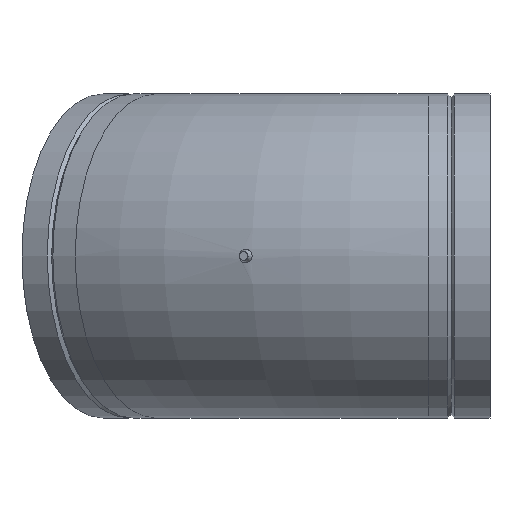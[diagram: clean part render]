
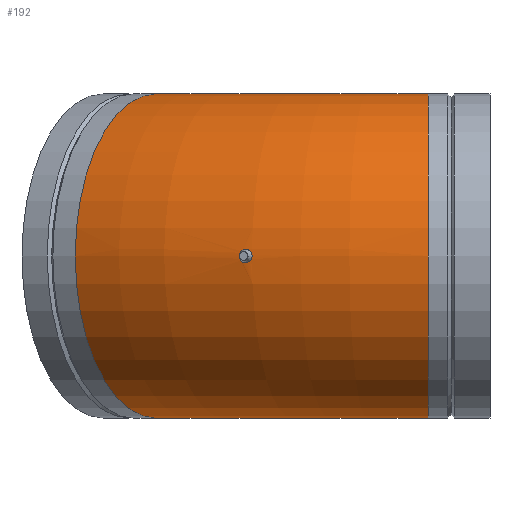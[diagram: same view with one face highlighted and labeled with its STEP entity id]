
A CAD part, left-side view. The second image highlights one B-rep face of the part: STEP entity #192.
In plain terms, the highlighted toroidal (fillet/blend) face has major radius 420 mm and minor radius 125 mm.
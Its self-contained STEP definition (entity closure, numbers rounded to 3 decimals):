
#19=TOROIDAL_SURFACE($,#214,420.,125.);
#25=FACE_BOUND($,#62,.T.);
#26=FACE_BOUND($,#63,.T.);
#41=B_SPLINE_CURVE_WITH_KNOTS($,3,(#308,#309,#310,#311,#312,#313,#314,#315,
#316,#317,#318,#319,#320,#321,#322,#323,#324,#325,#326,#327,#328,#329,#330,
#331,#332,#333,#334,#335,#336,#337,#338,#339,#340,#341,#342,#343,#344,#345,
#346,#347,#348,#349,#350,#351),.UNSPECIFIED.,.T.,.F.,(4,2,2,2,2,2,2,2,2,
2,2,2,2,2,2,2,2,2,2,2,2,4),(-3.228,-3.151,-3.048,
-2.861,-2.661,-2.459,-2.265,
-2.082,-1.878,-1.739,-1.652,
-1.577,-1.49,-1.351,-1.154,
-0.952,-0.752,-0.564,-0.386,
-0.183,-0.078,0.),.UNSPECIFIED.);
#45=FACE_OUTER_BOUND($,#61,.T.);
#61=EDGE_LOOP($,(#140));
#62=EDGE_LOOP($,(#141));
#63=EDGE_LOOP($,(#142));
#91=CIRCLE($,#215,125.);
#92=CIRCLE($,#216,125.);
#104=VERTEX_POINT($,#307);
#107=VERTEX_POINT($,#359);
#108=VERTEX_POINT($,#361);
#120=EDGE_CURVE($,#104,#104,#41,.T.);
#123=EDGE_CURVE($,#107,#107,#91,.T.);
#124=EDGE_CURVE($,#108,#108,#92,.T.);
#140=ORIENTED_EDGE($,*,*,#123,.F.);
#141=ORIENTED_EDGE($,*,*,#124,.T.);
#142=ORIENTED_EDGE($,*,*,#120,.T.);
#192=ADVANCED_FACE($,(#45,#25,#26),#19,.T.);
#214=AXIS2_PLACEMENT_3D($,#358,#253,#254);
#215=AXIS2_PLACEMENT_3D($,#360,#255,#256);
#216=AXIS2_PLACEMENT_3D($,#362,#257,#258);
#253=DIRECTION('center_axis',(0.,0.,-1.));
#254=DIRECTION('ref_axis',(-1.,0.,0.));
#255=DIRECTION('center_axis',(0.,-1.,0.));
#256=DIRECTION('ref_axis',(1.,0.,0.));
#257=DIRECTION('center_axis',(-0.5,-0.866,0.));
#258=DIRECTION('ref_axis',(0.866,-0.5,0.));
#307=CARTESIAN_POINT('',(-105.083,193.451,0.));
#308=CARTESIAN_POINT('Ctrl Pts',(-105.083,193.451,0.));
#309=CARTESIAN_POINT('Ctrl Pts',(-105.083,193.451,0.257));
#310=CARTESIAN_POINT('Ctrl Pts',(-105.087,193.433,0.514));
#311=CARTESIAN_POINT('Ctrl Pts',(-105.108,193.345,1.109));
#312=CARTESIAN_POINT('Ctrl Pts',(-105.127,193.262,1.442));
#313=CARTESIAN_POINT('Ctrl Pts',(-105.203,192.94,2.351));
#314=CARTESIAN_POINT('Ctrl Pts',(-105.277,192.63,2.893));
#315=CARTESIAN_POINT('Ctrl Pts',(-105.475,191.81,3.87));
#316=CARTESIAN_POINT('Ctrl Pts',(-105.602,191.295,4.285));
#317=CARTESIAN_POINT('Ctrl Pts',(-105.895,190.135,4.891));
#318=CARTESIAN_POINT('Ctrl Pts',(-106.059,189.5,5.073));
#319=CARTESIAN_POINT('Ctrl Pts',(-106.397,188.229,5.169));
#320=CARTESIAN_POINT('Ctrl Pts',(-106.566,187.605,5.094));
#321=CARTESIAN_POINT('Ctrl Pts',(-106.887,186.453,4.717));
#322=CARTESIAN_POINT('Ctrl Pts',(-107.036,185.93,4.431));
#323=CARTESIAN_POINT('Ctrl Pts',(-107.318,184.953,3.638));
#324=CARTESIAN_POINT('Ctrl Pts',(-107.445,184.523,3.116));
#325=CARTESIAN_POINT('Ctrl Pts',(-107.605,183.986,2.119));
#326=CARTESIAN_POINT('Ctrl Pts',(-107.655,183.822,1.685));
#327=CARTESIAN_POINT('Ctrl Pts',(-107.707,183.649,0.953));
#328=CARTESIAN_POINT('Ctrl Pts',(-107.72,183.605,0.666));
#329=CARTESIAN_POINT('Ctrl Pts',(-107.731,183.567,0.126));
#330=CARTESIAN_POINT('Ctrl Pts',(-107.731,183.567,-0.125));
#331=CARTESIAN_POINT('Ctrl Pts',(-107.72,183.605,-0.665));
#332=CARTESIAN_POINT('Ctrl Pts',(-107.707,183.649,-0.952));
#333=CARTESIAN_POINT('Ctrl Pts',(-107.655,183.821,-1.684));
#334=CARTESIAN_POINT('Ctrl Pts',(-107.605,183.985,-2.117));
#335=CARTESIAN_POINT('Ctrl Pts',(-107.449,184.511,-3.094));
#336=CARTESIAN_POINT('Ctrl Pts',(-107.328,184.921,-3.6));
#337=CARTESIAN_POINT('Ctrl Pts',(-107.039,185.916,-4.432));
#338=CARTESIAN_POINT('Ctrl Pts',(-106.875,186.495,-4.745));
#339=CARTESIAN_POINT('Ctrl Pts',(-106.531,187.733,-5.119));
#340=CARTESIAN_POINT('Ctrl Pts',(-106.356,188.379,-5.178));
#341=CARTESIAN_POINT('Ctrl Pts',(-106.027,189.623,-5.039));
#342=CARTESIAN_POINT('Ctrl Pts',(-105.876,190.21,-4.857));
#343=CARTESIAN_POINT('Ctrl Pts',(-105.61,191.262,-4.297));
#344=CARTESIAN_POINT('Ctrl Pts',(-105.496,191.725,-3.935));
#345=CARTESIAN_POINT('Ctrl Pts',(-105.293,192.563,-3.005));
#346=CARTESIAN_POINT('Ctrl Pts',(-105.21,192.909,-2.425));
#347=CARTESIAN_POINT('Ctrl Pts',(-105.128,193.257,-1.464));
#348=CARTESIAN_POINT('Ctrl Pts',(-105.108,193.343,-1.124));
#349=CARTESIAN_POINT('Ctrl Pts',(-105.087,193.432,-0.52));
#350=CARTESIAN_POINT('Ctrl Pts',(-105.083,193.451,-0.26));
#351=CARTESIAN_POINT('Ctrl Pts',(-105.083,193.451,0.));
#358=CARTESIAN_POINT('Origin',(420.,47.461,0.));
#359=CARTESIAN_POINT('',(-125.,47.461,0.));
#360=CARTESIAN_POINT('Origin',(0.,47.461,0.));
#361=CARTESIAN_POINT('',(-51.984,319.961,0.));
#362=CARTESIAN_POINT('Origin',(56.269,257.461,0.));
